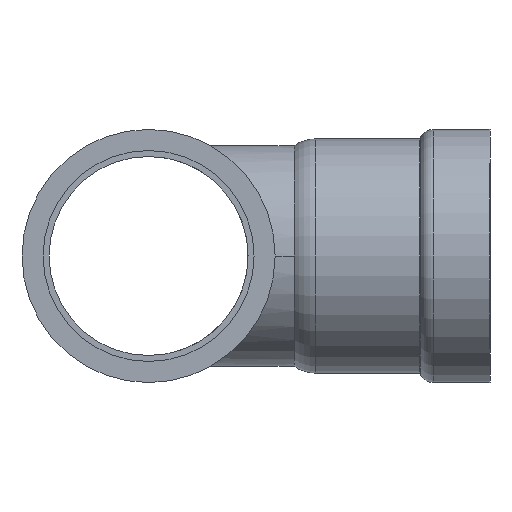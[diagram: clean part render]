
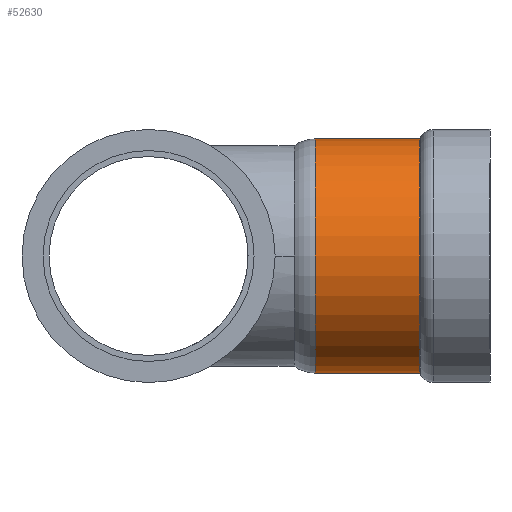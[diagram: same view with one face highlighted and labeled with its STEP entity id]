
A CAD part, left-side view. The second image highlights one B-rep face of the part: STEP entity #52630.
In plain terms, the highlighted cylindrical face has radius 34.15 mm (diameter 68.3 mm), a partial arc.
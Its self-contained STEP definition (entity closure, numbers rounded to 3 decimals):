
#51520=CARTESIAN_POINT('',(149.148,83.245,48.621));
#51530=VERTEX_POINT('',#51520);
#51560=CARTESIAN_POINT('',(149.148,49.095,48.621));
#51570=DIRECTION('',(0.,0.,-1.));
#51580=DIRECTION('',(0.,1.,0.));
#51590=AXIS2_PLACEMENT_3D('',#51560,#51570,#51580);
#51600=CIRCLE('',#51590,34.15);
#51610=CARTESIAN_POINT('',(149.148,14.945,48.621));
#51620=VERTEX_POINT('',#51610);
#51630=EDGE_CURVE('',#51620,#51530,#51600,.T.);
#51850=CARTESIAN_POINT('',(149.148,14.945,78.815));
#51860=DIRECTION('',(0.,0.,1.));
#51870=VECTOR('',#51860,1.);
#51880=LINE('',#51850,#51870);
#51890=CARTESIAN_POINT('',(149.148,14.945,79.071));
#51900=VERTEX_POINT('',#51890);
#51910=EDGE_CURVE('',#51620,#51900,#51880,.T.);
#51930=CARTESIAN_POINT('',(149.148,49.095,79.071));
#51940=DIRECTION('',(0.,0.,1.));
#51950=DIRECTION('',(0.,1.,0.));
#51960=AXIS2_PLACEMENT_3D('',#51930,#51940,#51950);
#51970=CIRCLE('',#51960,34.15);
#51980=CARTESIAN_POINT('',(149.148,83.245,79.071));
#51990=VERTEX_POINT('',#51980);
#52020=CARTESIAN_POINT('',(149.148,83.245,78.815));
#52030=DIRECTION('',(0.,0.,1.));
#52040=VECTOR('',#52030,1.);
#52050=LINE('',#52020,#52040);
#52060=EDGE_CURVE('',#51530,#51990,#52050,.T.);
#52510=CARTESIAN_POINT('',(149.148,49.095,78.815));
#52520=DIRECTION('',(0.,0.,1.));
#52530=DIRECTION('',(0.,1.,0.));
#52540=AXIS2_PLACEMENT_3D('',#52510,#52520,#52530);
#52550=CYLINDRICAL_SURFACE('',#52540,34.15);
#52560=EDGE_CURVE('',#51990,#51900,#51970,.T.);
#52570=ORIENTED_EDGE('',*,*,#52560,.F.);
#52580=ORIENTED_EDGE('',*,*,#51910,.T.);
#52590=ORIENTED_EDGE('',*,*,#51630,.F.);
#52600=ORIENTED_EDGE('',*,*,#52060,.F.);
#52610=EDGE_LOOP('',(#52600,#52590,#52580,#52570));
#52620=FACE_OUTER_BOUND('',#52610,.T.);
#52630=ADVANCED_FACE('',(#52620),#52550,.T.);
